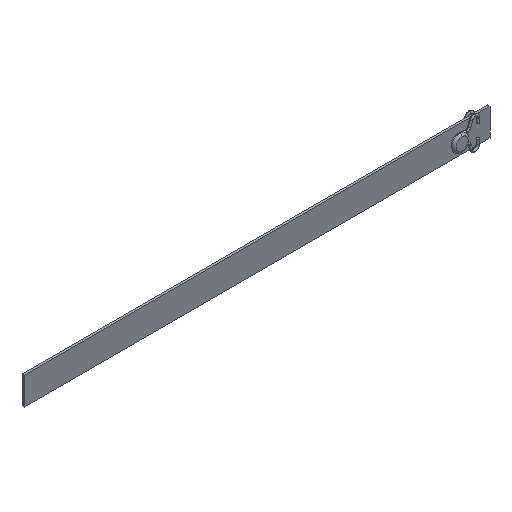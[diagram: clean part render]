
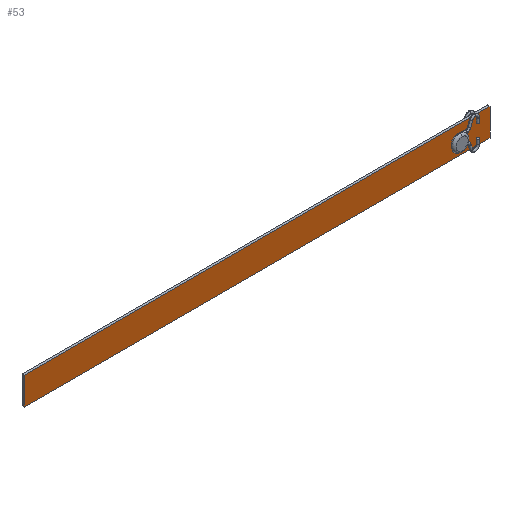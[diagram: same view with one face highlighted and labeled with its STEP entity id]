
A CAD part, isometric view. The second image highlights one B-rep face of the part: STEP entity #53.
In plain terms, the highlighted planar face has unit normal (0, -1, 0).
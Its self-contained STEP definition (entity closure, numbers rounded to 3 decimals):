
#42 = ORIENTED_EDGE ( 'NONE', *, *, #2067, .F. ) ;
#53 = ADVANCED_FACE ( 'NONE', ( #782, #2104 ), #1453, .F. ) ;
#91 = VERTEX_POINT ( 'NONE', #2117 ) ;
#115 = LINE ( 'NONE', #296, #1873 ) ;
#116 = EDGE_LOOP ( 'NONE', ( #506, #882 ) ) ;
#125 = EDGE_CURVE ( 'NONE', #1651, #644, #1140, .T. ) ;
#131 = DIRECTION ( 'NONE',  ( 1., 0., 0. ) ) ;
#155 = CARTESIAN_POINT ( 'NONE',  ( 0., -0.5, 5.925 ) ) ;
#165 = LINE ( 'NONE', #1154, #340 ) ;
#209 = CARTESIAN_POINT ( 'NONE',  ( -200., -0.5, -5.925 ) ) ;
#233 = DIRECTION ( 'NONE',  ( 0., 1., 0. ) ) ;
#240 = AXIS2_PLACEMENT_3D ( 'NONE', #1473, #447, #779 ) ;
#296 = CARTESIAN_POINT ( 'NONE',  ( 0., -0.5, -5.925 ) ) ;
#340 = VECTOR ( 'NONE', #131, 1000. ) ;
#374 = VECTOR ( 'NONE', #709, 1000. ) ;
#413 = ORIENTED_EDGE ( 'NONE', *, *, #1170, .F. ) ;
#444 = CARTESIAN_POINT ( 'NONE',  ( 0., -0.5, 5.925 ) ) ;
#447 = DIRECTION ( 'NONE',  ( 0., 1., 0. ) ) ;
#506 = ORIENTED_EDGE ( 'NONE', *, *, #125, .T. ) ;
#644 = VERTEX_POINT ( 'NONE', #912 ) ;
#664 = AXIS2_PLACEMENT_3D ( 'NONE', #1284, #1626, #2122 ) ;
#698 = EDGE_LOOP ( 'NONE', ( #413, #2015, #42, #1763 ) ) ;
#709 = DIRECTION ( 'NONE',  ( 0., 0., 1. ) ) ;
#715 = VECTOR ( 'NONE', #1123, 1000. ) ;
#744 = VERTEX_POINT ( 'NONE', #1981 ) ;
#779 = DIRECTION ( 'NONE',  ( 0., 0., 1. ) ) ;
#782 = FACE_BOUND ( 'NONE', #116, .T. ) ;
#851 = EDGE_CURVE ( 'NONE', #644, #1651, #1900, .T. ) ;
#882 = ORIENTED_EDGE ( 'NONE', *, *, #851, .T. ) ;
#912 = CARTESIAN_POINT ( 'NONE',  ( -14., -0.5, -1.95 ) ) ;
#935 = VERTEX_POINT ( 'NONE', #209 ) ;
#1097 = VERTEX_POINT ( 'NONE', #155 ) ;
#1123 = DIRECTION ( 'NONE',  ( 0., 0., -1. ) ) ;
#1140 = CIRCLE ( 'NONE', #1254, 1.95 ) ;
#1154 = CARTESIAN_POINT ( 'NONE',  ( 0., -0.5, 5.925 ) ) ;
#1170 = EDGE_CURVE ( 'NONE', #91, #935, #115, .T. ) ;
#1254 = AXIS2_PLACEMENT_3D ( 'NONE', #1432, #233, #1265 ) ;
#1265 = DIRECTION ( 'NONE',  ( 0., 0., 1. ) ) ;
#1284 = CARTESIAN_POINT ( 'NONE',  ( 0., -0.5, 0. ) ) ;
#1432 = CARTESIAN_POINT ( 'NONE',  ( -14., -0.5, 0. ) ) ;
#1453 = PLANE ( 'NONE',  #664 ) ;
#1473 = CARTESIAN_POINT ( 'NONE',  ( -14., -0.5, 0. ) ) ;
#1552 = EDGE_CURVE ( 'NONE', #935, #744, #1691, .T. ) ;
#1626 = DIRECTION ( 'NONE',  ( 0., 1., 0. ) ) ;
#1637 = LINE ( 'NONE', #444, #715 ) ;
#1651 = VERTEX_POINT ( 'NONE', #1992 ) ;
#1691 = LINE ( 'NONE', #1916, #374 ) ;
#1763 = ORIENTED_EDGE ( 'NONE', *, *, #1552, .F. ) ;
#1846 = DIRECTION ( 'NONE',  ( -1., 0., 0. ) ) ;
#1873 = VECTOR ( 'NONE', #1846, 1000. ) ;
#1900 = CIRCLE ( 'NONE', #240, 1.95 ) ;
#1916 = CARTESIAN_POINT ( 'NONE',  ( -200., -0.5, -5.925 ) ) ;
#1970 = EDGE_CURVE ( 'NONE', #1097, #91, #1637, .T. ) ;
#1981 = CARTESIAN_POINT ( 'NONE',  ( -200., -0.5, 5.925 ) ) ;
#1992 = CARTESIAN_POINT ( 'NONE',  ( -14., -0.5, 1.95 ) ) ;
#2015 = ORIENTED_EDGE ( 'NONE', *, *, #1970, .F. ) ;
#2067 = EDGE_CURVE ( 'NONE', #744, #1097, #165, .T. ) ;
#2104 = FACE_OUTER_BOUND ( 'NONE', #698, .T. ) ;
#2117 = CARTESIAN_POINT ( 'NONE',  ( 0., -0.5, -5.925 ) ) ;
#2122 = DIRECTION ( 'NONE',  ( 0., 0., 1. ) ) ;
